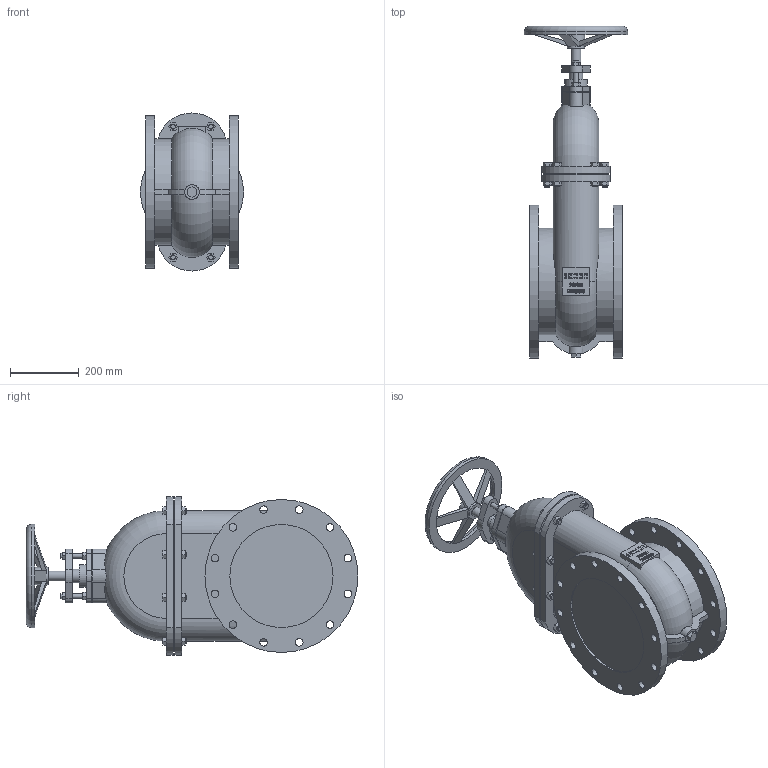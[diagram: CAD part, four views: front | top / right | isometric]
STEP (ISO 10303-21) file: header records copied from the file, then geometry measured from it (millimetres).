
FILE_DESCRIPTION(/* description */ (''),/* implementation_level */ '2;1');
FILE_NAME(/* name */ '292NOD-DN300-PN10.stp',/* time_stamp */ '2024-06-20T10:19:10+02:00',/* author */ ('roger.thijssen'),/* organization */ (''),/* preprocessor_version */ 'ST-DEVELOPER v20',/* originating_system */ 'Autodesk Inventor 2024',/* authorisation */ '');
FILE_SCHEMA (('AUTOMOTIVE_DESIGN { 1 0 10303 214 3 1 1 }'));
Length unit declared in the file: millimetre
Products named in the file (1): 292N-DN300-PN10
Bounding box: 300 x 965.5 x 460 mm (x, y, z)
Volume: 45719576.4 mm3; surface area: 1519512.5 mm2
Topology: 1 solids, 1 shells, 553 faces, 1445 edges, 945 vertices
Faces by surface type: plane 358, cylinder 100, bspline 91, torus 4
Full cylindrical faces by diameter (mm): 14 x22, 22 x24, 28 x1, 40 x1, 43 x1, 50 x2, 66 x2, 240 x1, 300 x3, 310 x2, 445 x2
Entity records: 18633 total; most frequent: CARTESIAN_POINT 4663, ORIENTED_EDGE 2890, DIRECTION 2406, EDGE_CURVE 1445, LINE 1002, VECTOR 1002, VERTEX_POINT 945, AXIS2_PLACEMENT_3D 702
